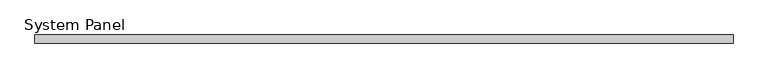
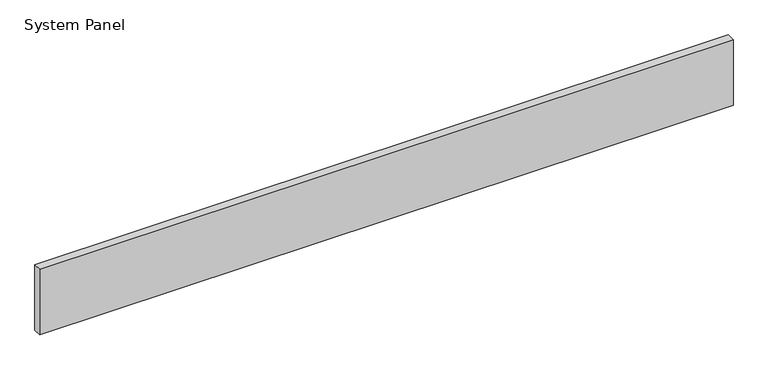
"""IFC4 building model written with IfcOpenShell, lengths in millimetres: plate geometry, System Panel : InsulWall_140mm_Plain_Surfmist."""

from ifc_helpers import new_model, si_unit, origin, origin_with_axes, place, context, project, spatial, polyline, outline, extrude, source, transform, mapped, element, save


def system_panel_732309b4(model_context):
    return source(origin(), model_context, "Body", "SweptSolid", [
        extrude(outline(polyline([(6000.0, 0.0), (-6000.0, 0.0), (-6000.0, 140.0), (6000.0, 140.0), (6000.0, 0.0)])), origin_with_axes(), (0.0, 0.0, 1.0), 1200.0),
    ])


if __name__ == "__main__":
    model = new_model("IFC4")
    model_context = context("Model", 3, world=origin())
    ifc_project = project(units=[si_unit("LENGTHUNIT", "METRE", prefix="MILLI")], contexts=[model_context])
    site = spatial("IfcSite", under=ifc_project)
    building = spatial("IfcBuilding", under=site)
    placement = place(None, origin())
    system_panel_shape = system_panel_732309b4(model_context)
    element("IfcPlate", 1, ObjectType="System Panel : InsulWall_140mm_Plain_Surfmist", at=placement, inside=building, context=model_context, shape_type="MappedRepresentation", body=[
        mapped(system_panel_shape, transform((0.0, 0.0, 0.0), x_axis=(1.0, 0.0, 0.0), y_axis=(0.0, 1.0, 0.0), z_axis=(0.0, 0.0, 1.0))),
    ])
    save(model, "model.ifc")
